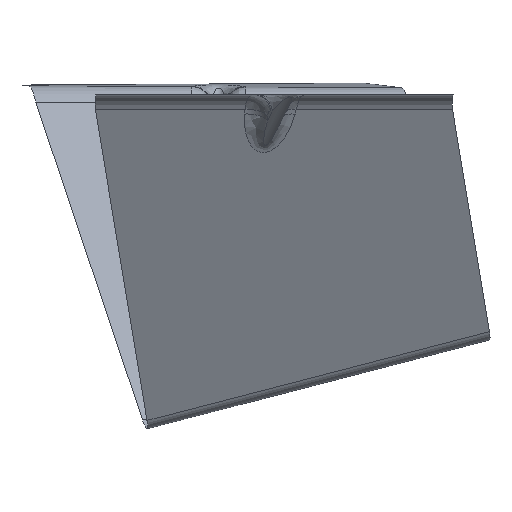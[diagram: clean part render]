
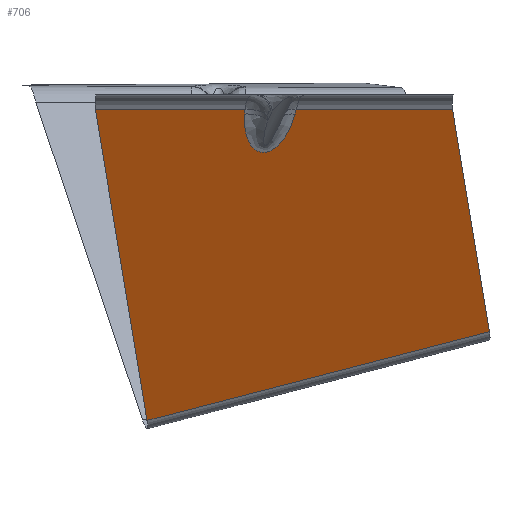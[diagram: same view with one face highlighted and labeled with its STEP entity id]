
A CAD part, left-side view. The second image highlights one B-rep face of the part: STEP entity #706.
In plain terms, the highlighted planar face has unit normal (-0.83, -0.249, -0.5).
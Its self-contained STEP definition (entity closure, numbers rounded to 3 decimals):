
#251=CARTESIAN_POINT('Vertex',(-98.256,8.372,-0.75)) ;
#274=CARTESIAN_POINT('Line Origine',(-77.77,10.778,-35.935)) ;
#278=CARTESIAN_POINT('Vertex',(-97.504,8.46,-2.042)) ;
#591=CARTESIAN_POINT('Control Point',(-93.259,-5.689,-2.042)) ;
#592=CARTESIAN_POINT('Control Point',(-93.035,-5.576,-2.47)) ;
#593=CARTESIAN_POINT('Control Point',(-92.813,-5.453,-2.899)) ;
#594=CARTESIAN_POINT('Control Point',(-92.595,-5.32,-3.327)) ;
#595=CARTESIAN_POINT('Control Point',(-91.979,-4.905,-4.556)) ;
#596=CARTESIAN_POINT('Control Point',(-91.396,-4.397,-5.776)) ;
#597=CARTESIAN_POINT('Control Point',(-91.033,-4.024,-6.564)) ;
#598=CARTESIAN_POINT('Control Point',(-90.542,-3.424,-7.678)) ;
#599=CARTESIAN_POINT('Control Point',(-90.105,-2.701,-8.762)) ;
#600=CARTESIAN_POINT('Control Point',(-89.98,-2.473,-9.083)) ;
#601=CARTESIAN_POINT('Control Point',(-89.761,-2.03,-9.666)) ;
#602=CARTESIAN_POINT('Control Point',(-89.568,-1.535,-10.232)) ;
#603=CARTESIAN_POINT('Control Point',(-89.486,-1.297,-10.487)) ;
#604=CARTESIAN_POINT('Control Point',(-89.303,-0.683,-11.096)) ;
#605=CARTESIAN_POINT('Control Point',(-89.176,0.023,-11.659)) ;
#606=CARTESIAN_POINT('Control Point',(-89.124,0.481,-11.973)) ;
#607=CARTESIAN_POINT('Control Point',(-89.102,1.198,-12.366)) ;
#608=CARTESIAN_POINT('Control Point',(-89.189,2.004,-12.623)) ;
#609=CARTESIAN_POINT('Control Point',(-89.225,2.251,-12.685)) ;
#610=CARTESIAN_POINT('Control Point',(-89.32,2.741,-12.772)) ;
#611=CARTESIAN_POINT('Control Point',(-89.459,3.234,-12.787)) ;
#612=CARTESIAN_POINT('Control Point',(-89.537,3.471,-12.775)) ;
#613=CARTESIAN_POINT('Control Point',(-89.774,4.101,-12.696)) ;
#614=CARTESIAN_POINT('Control Point',(-90.061,4.665,-12.5)) ;
#615=CARTESIAN_POINT('Control Point',(-90.256,4.989,-12.339)) ;
#616=CARTESIAN_POINT('Control Point',(-90.598,5.493,-12.022)) ;
#617=CARTESIAN_POINT('Control Point',(-90.948,5.916,-11.652)) ;
#618=CARTESIAN_POINT('Control Point',(-91.096,6.082,-11.488)) ;
#619=CARTESIAN_POINT('Control Point',(-91.432,6.432,-11.105)) ;
#620=CARTESIAN_POINT('Control Point',(-91.766,6.729,-10.699)) ;
#621=CARTESIAN_POINT('Control Point',(-91.951,6.881,-10.468)) ;
#622=CARTESIAN_POINT('Control Point',(-92.367,7.196,-9.934)) ;
#623=CARTESIAN_POINT('Control Point',(-92.778,7.455,-9.382)) ;
#624=CARTESIAN_POINT('Control Point',(-93.005,7.585,-9.07)) ;
#625=CARTESIAN_POINT('Control Point',(-93.509,7.846,-8.364)) ;
#626=CARTESIAN_POINT('Control Point',(-94.003,8.046,-7.643)) ;
#627=CARTESIAN_POINT('Control Point',(-94.274,8.14,-7.24)) ;
#628=CARTESIAN_POINT('Control Point',(-95.112,8.39,-5.975)) ;
#629=CARTESIAN_POINT('Control Point',(-95.923,8.508,-4.689)) ;
#630=CARTESIAN_POINT('Control Point',(-96.461,8.537,-3.81)) ;
#631=CARTESIAN_POINT('Control Point',(-96.988,8.521,-2.927)) ;
#632=CARTESIAN_POINT('Control Point',(-97.504,8.46,-2.042)) ;
#633=CARTESIAN_POINT('Vertex',(-93.259,-5.689,-2.042)) ;
#651=CARTESIAN_POINT('Axis2P3D Location',(-43.541,-13.062,-80.855)) ;
#656=CARTESIAN_POINT('Line Origine',(-93.597,-5.859,-1.396)) ;
#660=CARTESIAN_POINT('Vertex',(-93.936,-6.029,-0.75)) ;
#663=CARTESIAN_POINT('Line Origine',(-104.534,29.3,-0.75)) ;
#667=CARTESIAN_POINT('Vertex',(-110.813,50.227,-0.75)) ;
#670=CARTESIAN_POINT('Line Origine',(-82.395,43.003,-44.299)) ;
#674=CARTESIAN_POINT('Vertex',(-53.978,35.778,-87.848)) ;
#677=CARTESIAN_POINT('Line Origine',(-47.097,-12.158,-75.405)) ;
#681=CARTESIAN_POINT('Vertex',(-40.216,-60.094,-62.963)) ;
#684=CARTESIAN_POINT('Line Origine',(-60.514,-54.933,-31.856)) ;
#688=CARTESIAN_POINT('Vertex',(-80.813,-49.773,-0.75)) ;
#691=CARTESIAN_POINT('Line Origine',(-87.374,-27.901,-0.75)) ;
#275=DIRECTION('Vector Direction',(0.502,0.059,-0.863)) ;
#652=DIRECTION('Axis2P3D Direction',(0.83,0.249,0.5)) ;
#653=DIRECTION('Axis2P3D XDirection',(0.541,-0.138,-0.83)) ;
#657=DIRECTION('Vector Direction',(-0.452,-0.227,0.863)) ;
#664=DIRECTION('Vector Direction',(0.287,-0.958,0.)) ;
#671=DIRECTION('Vector Direction',(0.541,-0.138,-0.83)) ;
#678=DIRECTION('Vector Direction',(0.138,-0.959,0.249)) ;
#685=DIRECTION('Vector Direction',(-0.541,0.138,0.83)) ;
#692=DIRECTION('Vector Direction',(0.287,-0.958,0.)) ;
#654=AXIS2_PLACEMENT_3D('Plane Axis2P3D',#651,#652,#653) ;
#697=ORIENTED_EDGE('',*,*,#662,.T.) ;
#698=ORIENTED_EDGE('',*,*,#635,.T.) ;
#699=ORIENTED_EDGE('',*,*,#280,.T.) ;
#700=ORIENTED_EDGE('',*,*,#669,.F.) ;
#701=ORIENTED_EDGE('',*,*,#676,.T.) ;
#702=ORIENTED_EDGE('',*,*,#683,.T.) ;
#703=ORIENTED_EDGE('',*,*,#690,.T.) ;
#704=ORIENTED_EDGE('',*,*,#695,.F.) ;
#276=VECTOR('Line Direction',#275,1.) ;
#658=VECTOR('Line Direction',#657,1.) ;
#665=VECTOR('Line Direction',#664,1.) ;
#672=VECTOR('Line Direction',#671,1.) ;
#679=VECTOR('Line Direction',#678,1.) ;
#686=VECTOR('Line Direction',#685,1.) ;
#693=VECTOR('Line Direction',#692,1.) ;
#706=ADVANCED_FACE('Extract.1',(#705),#655,.F.) ;
#590=B_SPLINE_CURVE_WITH_KNOTS('',5,(#591,#592,#593,#594,#595,#596,#597,#598,#599,#600,#601,#602,#603,#604,#605,#606,#607,#608,#609,#610,#611,#612,#613,#614,#615,#616,#617,#618,#619,#620,#621,#622,#623,#624,#625,#626,#627,#628,#629,#630,#631,#632),.UNSPECIFIED.,.F.,.U.,(6,3,3,3,3,3,3,3,3,3,3,3,3,6),(26.322,29.626,35.824,38.452,40.674,43.883,45.233,46.522,48.741,50.376,52.427,55.013,58.219,65.037),.UNSPECIFIED.) ;
#280=EDGE_CURVE('',#279,#252,#277,.F.) ;
#635=EDGE_CURVE('',#634,#279,#590,.T.) ;
#662=EDGE_CURVE('',#661,#634,#659,.F.) ;
#669=EDGE_CURVE('',#668,#252,#666,.T.) ;
#676=EDGE_CURVE('',#668,#675,#673,.T.) ;
#683=EDGE_CURVE('',#675,#682,#680,.T.) ;
#690=EDGE_CURVE('',#682,#689,#687,.T.) ;
#695=EDGE_CURVE('',#661,#689,#694,.T.) ;
#696=EDGE_LOOP('',(#697,#698,#699,#700,#701,#702,#703,#704)) ;
#705=FACE_OUTER_BOUND('',#696,.T.) ;
#277=LINE('Line',#274,#276) ;
#659=LINE('Line',#656,#658) ;
#666=LINE('Line',#663,#665) ;
#673=LINE('Line',#670,#672) ;
#680=LINE('Line',#677,#679) ;
#687=LINE('Line',#684,#686) ;
#694=LINE('Line',#691,#693) ;
#655=PLANE('',#654) ;
#252=VERTEX_POINT('',#251) ;
#279=VERTEX_POINT('',#278) ;
#634=VERTEX_POINT('',#633) ;
#661=VERTEX_POINT('',#660) ;
#668=VERTEX_POINT('',#667) ;
#675=VERTEX_POINT('',#674) ;
#682=VERTEX_POINT('',#681) ;
#689=VERTEX_POINT('',#688) ;
